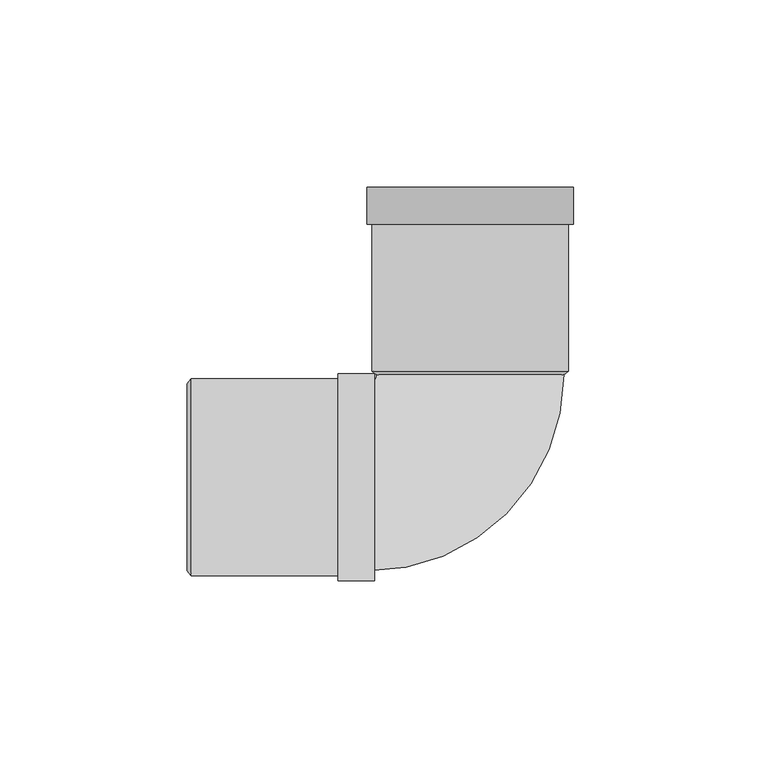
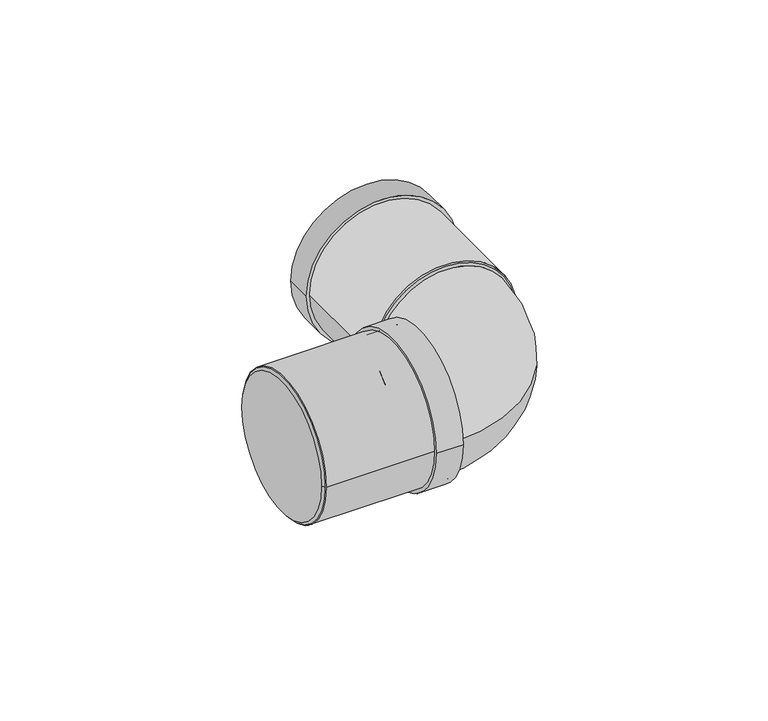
"""IFC4 building model written with IfcOpenShell, lengths in millimetres: pipe fitting geometry, Superdrain HT Bend Composite 2x45 : Superdrain HT Bend Composite 2x45."""

from ifc_helpers import new_model, si_unit, point, frame, origin, origin_2d, place, context, project, spatial, polyline, circle_curve, ellipse_curve, trimmed, segment, composite_curve, outline, extrude, source, transform, mapped, element, save
from ifc_brep_helpers import plane_surface, revolved_surface, advanced_brep


def pipe_fitting_14ca0a48(model_context):
    return source(origin(), model_context, "Body", "SolidModel", [
        extrude(outline(composite_curve([segment(trimmed(circle_curve(origin_2d(), 26.25), [point((26.25, 0.0))], [point((-26.25, 0.0))], False, "CARTESIAN"), True, "CONTINUOUS"), segment(trimmed(circle_curve(origin_2d(), 26.25), [point((-26.25, 0.0))], [point((26.25, 0.0))], False, "CARTESIAN"), True, "CONTINUOUS")], self_intersect=False), holes=[composite_curve([segment(trimmed(circle_curve(origin_2d(), 25.0), [point((25.0, 0.0))], [point((-25.0, 0.0))], True, "CARTESIAN"), True, "CONTINUOUS"), segment(trimmed(circle_curve(origin_2d(), 25.0), [point((-25.0, 0.0))], [point((25.0, 0.0))], True, "CARTESIAN"), True, "CONTINUOUS")], self_intersect=False)]), frame((-74.5, 0.0, 0.0), z_axis=(1.0, 0.0, 0.0), x_axis=(0.0, 1.0, 0.0)), (0.0, 0.0, 1.0), 49.0),
        extrude(outline(composite_curve([segment(trimmed(circle_curve(origin_2d(), 27.5625), [point((27.5625, 0.0))], [point((-27.5625, 0.0))], False, "CARTESIAN"), True, "CONTINUOUS"), segment(trimmed(circle_curve(origin_2d(), 27.5625), [point((-27.5625, 0.0))], [point((27.5625, 0.0))], False, "CARTESIAN"), True, "CONTINUOUS")], self_intersect=False), holes=[composite_curve([segment(trimmed(circle_curve(origin_2d(), 25.0), [point((25.0, 0.0))], [point((-25.0, 0.0))], True, "CARTESIAN"), True, "CONTINUOUS"), segment(trimmed(circle_curve(origin_2d(), 25.0), [point((-25.0, 0.0))], [point((25.0, 0.0))], True, "CARTESIAN"), True, "CONTINUOUS")], self_intersect=False)]), frame((-35.3, 0.0, 0.0), z_axis=(1.0, 0.0, 0.0), x_axis=(0.0, 1.0, 0.0)), (0.0, 0.0, 1.0), 9.8),
        advanced_brep(
        [(-75.5, 25.0, 0.0), (-75.5, -25.0, 0.0), (-74.5, 26.25, 0.0), (-74.5, -26.25, 0.0)],
        [
            (0, 1, circle_curve(frame((-75.5, 0.0, 0.0), z_axis=(-1.0, 0.0, 0.0), x_axis=(0.0, 1.0000000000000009, 0.0)), 25.0)),
            (1, 0, circle_curve(frame((-75.5, 0.0, 0.0), z_axis=(-1.0, 0.0, 0.0), x_axis=(0.0, -1.0000000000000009, 0.0)), 25.0)),
            (2, 3, circle_curve(frame((-74.5, 0.0, 0.0), z_axis=(1.0, 0.0, 0.0), x_axis=(0.0, -1.0000000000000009, 0.0)), 26.25)),
            (3, 2, circle_curve(frame((-74.5, 0.0, 0.0), z_axis=(1.0, 0.0, 0.0), x_axis=(0.0, 1.0000000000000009, 0.0)), 26.25)),
            (3, 1),
            (0, 2),
        ],
        [
            plane_surface(frame((-75.5, 0.0, 0.0), z_axis=(-1.0, 0.0, 0.0), x_axis=(0.0, 0.0, -1.0))),
            plane_surface(frame((-74.5, 0.0, 0.0), z_axis=(1.0, 0.0, 0.0), x_axis=(0.0, 0.0, -1.0))),
            revolved_surface(polyline([(-75.5, 24.999999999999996, 0.0), (-74.5, 26.25, 0.0)]), (-95.5, 0.0, 0.0), (1.0000000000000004, 0.0, 0.0)),
            revolved_surface(polyline([(-75.5, -24.999999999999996, 0.0), (-74.5, -26.25, 0.0)]), (-95.5, 0.0, 0.0), (1.0000000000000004, 0.0, 0.0)),
        ],
        [
            (0, [[1, 2]]),
            (1, [[3, 4]]),
            (2, [[-4, 5, -1, 6]]),
            (3, [[-3, -6, -2, -5]]),
        ],
    ),
        advanced_brep(
        [(25.0, 27.3, 0.0), (-25.0, 27.3, 0.0), (-27.3, -25.0, 0.0), (-27.3, 25.0, 0.0)],
        [
            (0, 1, circle_curve(frame((0.0, 27.3, 0.0), z_axis=(0.0, 1.0, 0.0), x_axis=(-1.0, 0.0, 0.0)), 25.0)),
            (1, 0, circle_curve(frame((0.0, 27.3, 0.0), z_axis=(0.0, 1.0, 0.0), x_axis=(-1.0, 0.0, 0.0)), 25.0)),
            (2, 3, circle_curve(frame((-27.3, 0.0, 0.0), z_axis=(-1.0, 0.0, 0.0), x_axis=(0.0, 1.0, 0.0)), 25.0)),
            (3, 2, circle_curve(frame((-27.3, 0.0, 0.0), z_axis=(-1.0, 0.0, 0.0), x_axis=(0.0, 1.0, 0.0)), 25.0)),
            (3, 1, circle_curve(frame((-27.3, 27.3, 0.0), z_axis=(0.0, 0.0, 1.0), x_axis=(1.0, 0.0, 0.0)), 2.3)),
            (0, 2, circle_curve(frame((-27.3, 27.3, 0.0), z_axis=(0.0, 0.0, -1.0), x_axis=(1.0, 0.0, 0.0)), 52.3)),
        ],
        [
            plane_surface(frame((0.0, 27.3, 0.0), z_axis=(0.0, 1.0, 0.0), x_axis=(0.0, 0.0, -1.0))),
            plane_surface(frame((-27.3, 0.0, 0.0), z_axis=(-1.0, 0.0, 0.0), x_axis=(0.0, 0.0, -1.0))),
            revolved_surface(trimmed(ellipse_curve(frame((0.0, 27.3, 0.0), z_axis=(0.0, -1.0, 0.0), x_axis=(-1.0, 0.0, 0.0)), 25.0, 25.0), [point((-25.0, 27.3, 0.0))], [point((25.0, 27.3, 0.0))], True, "CARTESIAN"), (-27.3, 27.3, 0.0), (0.0, 0.0, 1.0)),
            revolved_surface(trimmed(ellipse_curve(frame((0.0, 27.3, 0.0), z_axis=(0.0, -1.0, 0.0), x_axis=(-1.0, 0.0, 0.0)), 25.0, 25.0), [point((25.0, 27.3, 0.0))], [point((-25.0, 27.3, 0.0))], True, "CARTESIAN"), (-27.3, 27.3, 0.0), (0.0, 0.0, 1.0)),
        ],
        [
            (0, [[1, 2]]),
            (1, [[3, 4]]),
            (2, [[-4, 5, -1, 6]]),
            (3, [[-3, -6, -2, -5]]),
        ],
    ),
        extrude(outline(composite_curve([segment(trimmed(circle_curve(origin_2d(), 26.25), [point((0.0, 26.25))], [point((0.0, -26.25))], False, "CARTESIAN"), True, "CONTINUOUS"), segment(trimmed(circle_curve(origin_2d(), 26.25), [point((0.0, -26.25))], [point((0.0, 26.25))], False, "CARTESIAN"), True, "CONTINUOUS")], self_intersect=False), holes=[composite_curve([segment(trimmed(circle_curve(origin_2d(), 25.0), [point((0.0, 25.0))], [point((0.0, -25.0))], True, "CARTESIAN"), True, "CONTINUOUS"), segment(trimmed(circle_curve(origin_2d(), 25.0), [point((0.0, -25.0))], [point((0.0, 25.0))], True, "CARTESIAN"), True, "CONTINUOUS")], self_intersect=False)]), frame((0.0, 28.3, 0.0), z_axis=(0.0, 1.0, 0.0), x_axis=(0.0, 0.0, 1.0)), (0.0, 0.0, 1.0), 49.0),
        extrude(outline(composite_curve([segment(trimmed(circle_curve(origin_2d(), 27.5625), [point((0.0, -27.5625))], [point((0.0, 27.5625))], False, "CARTESIAN"), True, "CONTINUOUS"), segment(trimmed(circle_curve(origin_2d(), 27.5625), [point((0.0, 27.5625))], [point((0.0, -27.5625))], False, "CARTESIAN"), True, "CONTINUOUS")], self_intersect=False), holes=[composite_curve([segment(trimmed(circle_curve(origin_2d(), 25.0), [point((0.0, -25.0))], [point((0.0, 25.0))], True, "CARTESIAN"), True, "CONTINUOUS"), segment(trimmed(circle_curve(origin_2d(), 25.0), [point((0.0, 25.0))], [point((0.0, -25.0))], True, "CARTESIAN"), True, "CONTINUOUS")], self_intersect=False)]), frame((0.0, 67.5, 0.0), z_axis=(0.0, 1.0, 0.0), x_axis=(0.0, 0.0, 1.0)), (0.0, 0.0, 1.0), 9.8),
        advanced_brep(
        [(26.25, 28.3, 0.0), (-26.25, 28.3, 0.0), (25.0, 27.3, 0.0), (-25.0, 27.3, 0.0)],
        [
            (0, 1, circle_curve(frame((0.0, 28.3, 0.0), z_axis=(0.0, 1.0, 0.0), x_axis=(1.0, 0.0, 0.0)), 26.25)),
            (1, 0, circle_curve(frame((0.0, 28.3, 0.0), z_axis=(0.0, 1.0, 0.0), x_axis=(-1.0, 0.0, 0.0)), 26.25)),
            (2, 3, circle_curve(frame((0.0, 27.3, 0.0), z_axis=(0.0, -1.0, 0.0), x_axis=(-1.0, 0.0, 0.0)), 25.0)),
            (3, 2, circle_curve(frame((0.0, 27.3, 0.0), z_axis=(0.0, -1.0, 0.0), x_axis=(1.0, 0.0, 0.0)), 25.0)),
            (3, 1),
            (0, 2),
        ],
        [
            plane_surface(frame((0.0, 28.3, 0.0), z_axis=(0.0, 1.0, 0.0), x_axis=(0.0, 0.0, -1.0))),
            plane_surface(frame((0.0, 27.3, 0.0), z_axis=(0.0, -1.0, 0.0), x_axis=(0.0, 0.0, -1.0))),
            revolved_surface(polyline([(-25.0, 27.3, 0.0), (-26.25, 28.3, 0.0)]), (0.0, 7.3, 0.0), (0.0, 1.0, 0.0)),
            revolved_surface(polyline([(25.0, 27.3, 0.0), (26.25, 28.3, 0.0)]), (0.0, 7.3, 0.0), (0.0, 1.0, 0.0)),
        ],
        [
            (0, [[1, 2]]),
            (1, [[3, 4]]),
            (2, [[-4, 5, -1, 6]]),
            (3, [[-3, -6, -2, -5]]),
        ],
    ),
        extrude(outline(composite_curve([segment(trimmed(circle_curve(origin_2d(), 25.0), [point((-25.0, 0.0))], [point((25.0, 0.0))], False, "CARTESIAN"), True, "CONTINUOUS"), segment(trimmed(circle_curve(origin_2d(), 25.0), [point((25.0, 0.0))], [point((-25.0, 0.0))], False, "CARTESIAN"), True, "CONTINUOUS")], self_intersect=False)), frame((-74.5, 0.0, 0.0), z_axis=(1.0, 0.0, 0.0), x_axis=(0.0, 1.0, 0.0)), (0.0, 0.0, 1.0), 47.2),
    ])


if __name__ == "__main__":
    model = new_model("IFC4")
    model_context = context("Model", 3, world=origin())
    ifc_project = project(units=[si_unit("LENGTHUNIT", "METRE", prefix="MILLI")], contexts=[model_context])
    site = spatial("IfcSite", under=ifc_project)
    building = spatial("IfcBuilding", under=site)
    placement = place(None, origin())
    pipe_fitting_shape = pipe_fitting_14ca0a48(model_context)
    element("IfcPipeFitting", 1, ObjectType="Superdrain HT Bend Composite 2x45 : Superdrain HT Bend Composite 2x45", at=placement, inside=building, context=model_context, shape_type="MappedRepresentation", body=[
        mapped(pipe_fitting_shape, transform((0.0, 0.0, 0.0), x_axis=(1.0, 0.0, 0.0), y_axis=(0.0, 1.0, 0.0), z_axis=(0.0, 0.0, 1.0))),
    ])
    save(model, "model.ifc")
